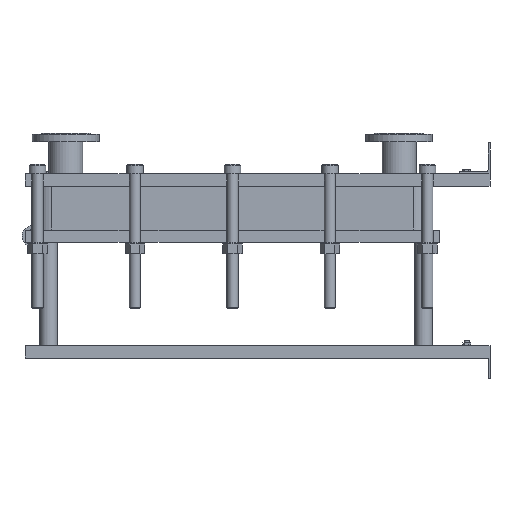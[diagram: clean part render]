
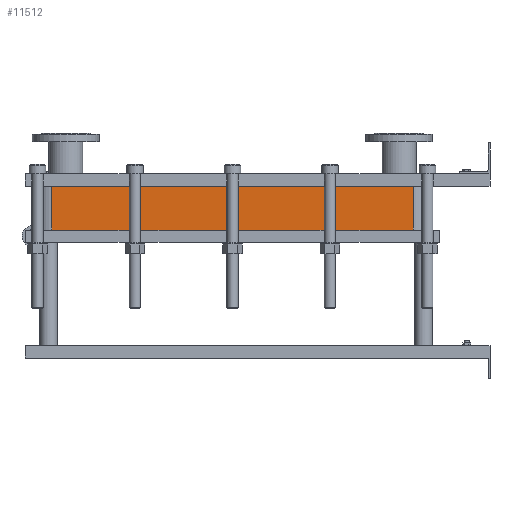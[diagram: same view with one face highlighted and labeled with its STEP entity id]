
A CAD part, left-side view. The second image highlights one B-rep face of the part: STEP entity #11512.
In plain terms, the highlighted planar face has unit normal (-1, 0, 0).
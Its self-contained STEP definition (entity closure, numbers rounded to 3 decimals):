
#1129=LINE('',#23232,#2102);
#1130=LINE('',#23236,#2103);
#1131=LINE('',#23238,#2104);
#1132=LINE('',#23239,#2105);
#2102=VECTOR('',#15887,10.);
#2103=VECTOR('',#15892,10.);
#2104=VECTOR('',#15893,10.);
#2105=VECTOR('',#15894,10.);
#3267=FACE_OUTER_BOUND('',#4093,.T.);
#4093=EDGE_LOOP('',(#10103,#10104,#10105,#10106));
#5642=VERTEX_POINT('',#23229);
#5643=VERTEX_POINT('',#23231);
#5644=VERTEX_POINT('',#23235);
#5645=VERTEX_POINT('',#23237);
#7159=EDGE_CURVE('',#5643,#5642,#1129,.T.);
#7161=EDGE_CURVE('',#5642,#5644,#1130,.T.);
#7162=EDGE_CURVE('',#5645,#5644,#1131,.T.);
#7163=EDGE_CURVE('',#5645,#5643,#1132,.T.);
#10103=ORIENTED_EDGE('',*,*,#7161,.T.);
#10104=ORIENTED_EDGE('',*,*,#7162,.F.);
#10105=ORIENTED_EDGE('',*,*,#7163,.T.);
#10106=ORIENTED_EDGE('',*,*,#7159,.T.);
#10857=PLANE('',#12751);
#11512=ADVANCED_FACE('',(#3267),#10857,.T.);
#12751=AXIS2_PLACEMENT_3D('',#23234,#15890,#15891);
#15887=DIRECTION('',(0.,0.,-1.));
#15890=DIRECTION('center_axis',(-1.,0.,0.));
#15891=DIRECTION('ref_axis',(0.,1.,0.));
#15892=DIRECTION('',(0.,-1.,0.));
#15893=DIRECTION('',(0.,0.,-1.));
#15894=DIRECTION('',(0.,1.,0.));
#23229=CARTESIAN_POINT('',(-200.,1414.,-141.45));
#23231=CARTESIAN_POINT('',(-200.,1414.,0.));
#23232=CARTESIAN_POINT('',(-200.,1414.,0.));
#23234=CARTESIAN_POINT('Origin',(-200.,248.,0.));
#23235=CARTESIAN_POINT('',(-200.,248.,-141.45));
#23236=CARTESIAN_POINT('',(-200.,539.5,-141.45));
#23237=CARTESIAN_POINT('',(-200.,248.,0.));
#23238=CARTESIAN_POINT('',(-200.,248.,0.));
#23239=CARTESIAN_POINT('',(-200.,248.,0.));
